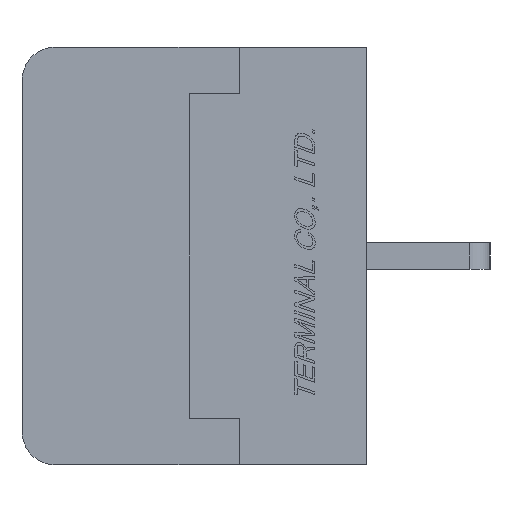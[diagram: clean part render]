
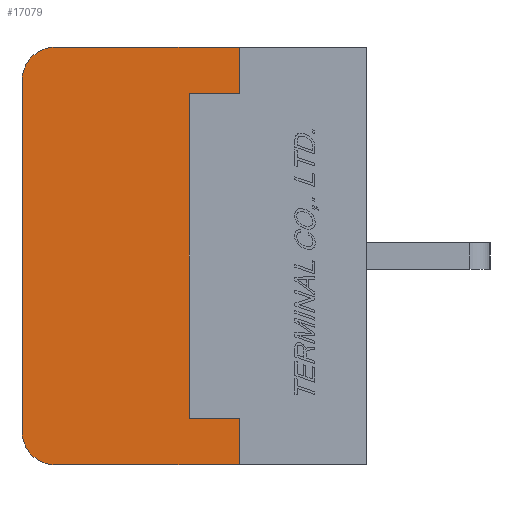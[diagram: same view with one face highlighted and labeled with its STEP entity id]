
A CAD part, left-side view. The second image highlights one B-rep face of the part: STEP entity #17079.
In plain terms, the highlighted planar face has unit normal (-1, 0, 0).
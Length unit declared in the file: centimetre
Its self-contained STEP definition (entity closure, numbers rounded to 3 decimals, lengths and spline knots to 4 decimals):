
#935=CIRCLE('',#28844,0.1);
#937=CIRCLE('',#28847,0.1);
#2312=VERTEX_POINT('',#26327);
#2313=VERTEX_POINT('',#26329);
#2315=VERTEX_POINT('',#26335);
#2317=VERTEX_POINT('',#26341);
#2318=VERTEX_POINT('',#26348);
#2319=VERTEX_POINT('',#26349);
#2320=VERTEX_POINT('',#26352);
#2321=VERTEX_POINT('',#26354);
#2322=VERTEX_POINT('',#26356);
#2323=VERTEX_POINT('',#26358);
#4132=VECTOR('',#20848,1.);
#4138=VECTOR('',#20868,1.);
#4139=VECTOR('',#20869,1.);
#4140=VECTOR('',#20870,1.);
#4141=VECTOR('',#20871,1.);
#4142=VECTOR('',#20872,1.);
#4143=VECTOR('',#20873,1.);
#4144=VECTOR('',#20874,1.);
#6020=LINE('',#26328,#4132);
#6026=LINE('',#26347,#4138);
#6027=LINE('',#26350,#4139);
#6028=LINE('',#26351,#4140);
#6029=LINE('',#26353,#4141);
#6030=LINE('',#26355,#4142);
#6031=LINE('',#26357,#4143);
#6032=LINE('',#26359,#4144);
#8504=EDGE_CURVE('',#2312,#2313,#6020,.T.);
#8508=EDGE_CURVE('',#2315,#2312,#935,.T.);
#8510=EDGE_CURVE('',#2313,#2317,#937,.T.);
#8514=EDGE_CURVE('',#2318,#2319,#6026,.T.);
#8515=EDGE_CURVE('',#2317,#2318,#6027,.T.);
#8516=EDGE_CURVE('',#2320,#2315,#6028,.T.);
#8517=EDGE_CURVE('',#2321,#2320,#6029,.T.);
#8518=EDGE_CURVE('',#2322,#2321,#6030,.T.);
#8519=EDGE_CURVE('',#2323,#2322,#6031,.T.);
#8520=EDGE_CURVE('',#2319,#2323,#6032,.T.);
#13102=ORIENTED_EDGE('',*,*,#8514,.F.);
#13103=ORIENTED_EDGE('',*,*,#8515,.F.);
#13104=ORIENTED_EDGE('',*,*,#8510,.F.);
#13105=ORIENTED_EDGE('',*,*,#8504,.F.);
#13106=ORIENTED_EDGE('',*,*,#8508,.F.);
#13107=ORIENTED_EDGE('',*,*,#8516,.F.);
#13108=ORIENTED_EDGE('',*,*,#8517,.F.);
#13109=ORIENTED_EDGE('',*,*,#8518,.F.);
#13110=ORIENTED_EDGE('',*,*,#8519,.F.);
#13111=ORIENTED_EDGE('',*,*,#8520,.F.);
#15041=EDGE_LOOP('',(#13102,#13103,#13104,#13105,#13106,#13107,#13108,#13109,
#13110,#13111));
#16091=FACE_BOUND('',#15041,.T.);
#17079=ADVANCED_FACE('',(#16091),#17815,.F.);
#17815=PLANE('',#28849);
#20848=DIRECTION('',(0.,0.,1.));
#20855=DIRECTION('',(1.,0.,0.));
#20856=DIRECTION('',(0.,0.,-0.1));
#20861=DIRECTION('',(1.,0.,0.));
#20862=DIRECTION('',(0.,0.,-0.1));
#20867=DIRECTION('',(1.,0.,0.));
#20868=DIRECTION('',(0.,0.,-1.));
#20869=DIRECTION('',(0.,-1.,0.));
#20870=DIRECTION('',(0.,1.,0.));
#20871=DIRECTION('',(0.,0.,-1.));
#20872=DIRECTION('',(0.,-1.,0.));
#20873=DIRECTION('',(0.,0.,-1.));
#20874=DIRECTION('',(0.,1.,0.));
#26327=CARTESIAN_POINT('',(-0.762,1.03,-0.525));
#26328=CARTESIAN_POINT('',(-0.762,1.03,-0.525));
#26329=CARTESIAN_POINT('',(-0.762,1.03,0.525));
#26335=CARTESIAN_POINT('',(-0.762,0.93,-0.625));
#26336=CARTESIAN_POINT('',(-0.762,0.93,-0.525));
#26340=CARTESIAN_POINT('',(-0.762,0.93,0.525));
#26341=CARTESIAN_POINT('',(-0.762,0.93,0.625));
#26346=CARTESIAN_POINT('',(-0.762,0.5047,0.));
#26347=CARTESIAN_POINT('',(-0.762,0.38,0.625));
#26348=CARTESIAN_POINT('',(-0.762,0.38,0.625));
#26349=CARTESIAN_POINT('',(-0.762,0.38,0.485));
#26350=CARTESIAN_POINT('',(-0.762,0.93,0.625));
#26351=CARTESIAN_POINT('',(-0.762,0.,-0.625));
#26352=CARTESIAN_POINT('',(-0.762,0.38,-0.625));
#26353=CARTESIAN_POINT('',(-0.762,0.38,-0.485));
#26354=CARTESIAN_POINT('',(-0.762,0.38,-0.485));
#26355=CARTESIAN_POINT('',(-0.762,0.53,-0.485));
#26356=CARTESIAN_POINT('',(-0.762,0.53,-0.485));
#26357=CARTESIAN_POINT('',(-0.762,0.53,0.485));
#26358=CARTESIAN_POINT('',(-0.762,0.53,0.485));
#26359=CARTESIAN_POINT('',(-0.762,0.38,0.485));
#28844=AXIS2_PLACEMENT_3D('',#26336,#20855,#20856);
#28847=AXIS2_PLACEMENT_3D('',#26340,#20861,#20862);
#28849=AXIS2_PLACEMENT_3D('',#26346,#20867,$);
